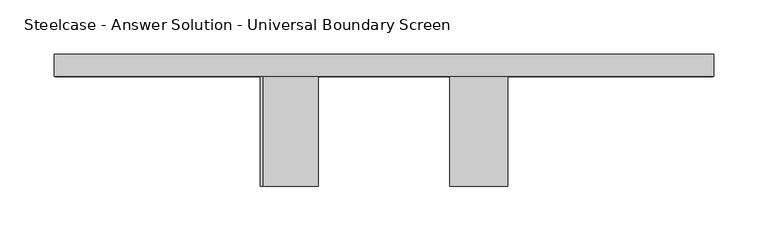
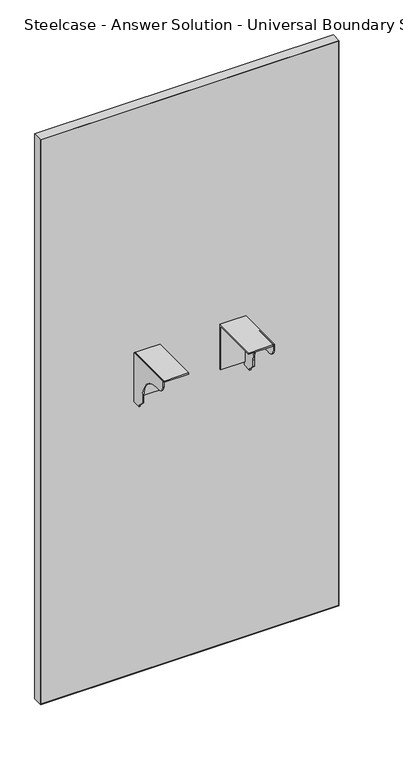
"""IFC4 building model written with IfcOpenShell, lengths in millimetres: furniture geometry, Steelcase - Answer Solution - Universal Boundary Screen : 48H x 24W."""

from ifc_helpers import new_model, si_unit, point, frame, frame_2d, origin, place, context, project, spatial, polyline, circle_curve, trimmed, segment, composite_curve, outline, extrude, source, transform, mapped, element, save


def steelcase_answer_solution_universal_boundary_screen_ae34b98b(model_context):
    return source(origin(), model_context, "Body", "SweptSolid", [
        extrude(outline(polyline([(-103.1670434, 689.3558876), (-103.1670434, 692.1499758), (-1.5668826, 692.1499758), (-1.5668826, 595.5029317), (-4.1079736, 595.5029317), (-4.1079736, 689.3558876), (-103.1670434, 689.3558876)])), frame((591.0336711, 0.0, 0.0), z_axis=(1.0, 0.0, 0.0), x_axis=(0.0, 1.0, 0.0)), (0.0, 0.0, 1.0), 53.3444116),
        extrude(outline(composite_curve([segment(polyline([(-103.1670434, 679.2814802), (-103.1670434, 692.1499758), (-1.5668826, 692.1499758), (-1.5668826, 586.9634093), (-19.8232934, 586.9634093), (-19.8232934, 589.7574248), (-32.0458032, 601.9799346), (-32.0458032, 615.7814802)]), True, "CONTINUOUS"), segment(trimmed(circle_curve(frame_2d((-82.8458032, 615.7814802)), 50.8), [point((-32.0458032, 615.7814802))], [point((-82.8458032, 666.5814802))], True, "CARTESIAN"), True, "CONTINUOUS"), segment(polyline([(-82.8458032, 666.5814802), (-90.4670434, 666.5814802)]), True, "CONTINUOUS"), segment(trimmed(circle_curve(frame_2d((-90.4670434, 679.2814802)), 12.7), [point((-90.4670434, 666.5814802))], [point((-103.1670434, 679.2814802))], False, "CARTESIAN"), True, "CONTINUOUS")], self_intersect=False)), frame((641.8328959, 0.0, 0.0), z_axis=(1.0, 0.0, 0.0), x_axis=(0.0, 1.0, 0.0)), (0.0, 0.0, 1.0), 2.5451868),
        extrude(outline(polyline([(-103.1670434, 689.3558876), (-103.1670434, 692.1499758), (-1.5668826, 692.1499758), (-1.5668826, 595.5029317), (-4.1079736, 595.5029317), (-4.1079736, 689.3558876), (-103.1670434, 689.3558876)])), frame((418.3232694, 0.0, 0.0), z_axis=(1.0, 0.0, 0.0), x_axis=(0.0, 1.0, 0.0)), (0.0, 0.0, 1.0), 50.7992249),
        extrude(outline(composite_curve([segment(polyline([(-103.1670434, 679.2814802), (-103.1670434, 692.1499758), (-1.5668826, 692.1499758), (-1.5668826, 586.9634093), (-19.8232934, 586.9634093), (-19.8232934, 589.7574248), (-32.0458032, 601.9799346), (-32.0458032, 615.7814802)]), True, "CONTINUOUS"), segment(trimmed(circle_curve(frame_2d((-82.8458032, 615.7814802)), 50.8), [point((-32.0458032, 615.7814802))], [point((-82.8458032, 666.5814802))], True, "CARTESIAN"), True, "CONTINUOUS"), segment(polyline([(-82.8458032, 666.5814802), (-90.4670434, 666.5814802)]), True, "CONTINUOUS"), segment(trimmed(circle_curve(frame_2d((-90.4670434, 679.2814802)), 12.7), [point((-90.4670434, 666.5814802))], [point((-103.1670434, 679.2814802))], False, "CARTESIAN"), True, "CONTINUOUS")], self_intersect=False)), frame((415.7780827, 0.0, 0.0), z_axis=(1.0, 0.0, 0.0), x_axis=(0.0, 1.0, 0.0)), (0.0, 0.0, 1.0), 2.5451868),
        extrude(outline(polyline([(226.2706578, 18.9055112), (833.8855076, 18.9055112), (833.8855076, -1.5668826), (226.2706578, -1.5668826), (226.2706578, 18.9055112)])), frame((0.0, 0.0, 1.016), z_axis=(0.0, 0.0, 1.0), x_axis=(1.0, 0.0, 0.0)), (0.0, 0.0, 1.0), 1217.1914249),
        extrude(outline(polyline([(1219.2, 834.8780827), (1219.2, 225.2780827), (0.0, 225.2780827), (0.0, 834.8780827), (1219.2, 834.8780827)]), holes=[polyline([(1218.2074249, 833.8855076), (1.016, 833.8855076), (1.016, 226.2706578), (1218.2074249, 226.2706578), (1218.2074249, 833.8855076)])]), frame((0.0, -1.5668826, 0.0), z_axis=(0.0, 1.0, 0.0), x_axis=(0.0, 0.0, 1.0)), (0.0, 0.0, 1.0), 20.4723938),
    ])


if __name__ == "__main__":
    model = new_model("IFC4")
    model_context = context("Model", 3, world=origin())
    ifc_project = project(units=[si_unit("LENGTHUNIT", "METRE", prefix="MILLI")], contexts=[model_context])
    site = spatial("IfcSite", under=ifc_project)
    building = spatial("IfcBuilding", under=site)
    placement = place(None, origin())
    steelcase_answer_solution_universal_boundary_screen_shape = steelcase_answer_solution_universal_boundary_screen_ae34b98b(model_context)
    element("IfcFurniture", 1, ObjectType="Steelcase - Answer Solution - Universal Boundary Screen : 48H x 24W", at=placement, inside=building, context=model_context, shape_type="MappedRepresentation", body=[
        mapped(steelcase_answer_solution_universal_boundary_screen_shape, transform((0.0, 0.0, 0.0), x_axis=(1.0, 0.0, 0.0), y_axis=(0.0, 1.0, 0.0), z_axis=(0.0, 0.0, 1.0))),
    ])
    save(model, "model.ifc")
